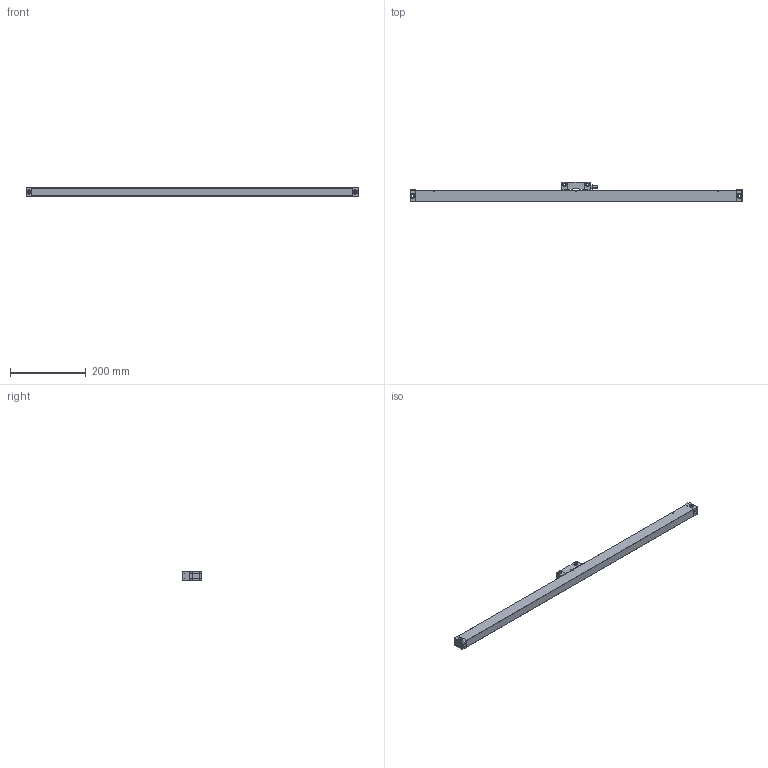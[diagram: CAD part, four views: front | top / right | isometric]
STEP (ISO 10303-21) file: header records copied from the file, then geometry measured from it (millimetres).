
FILE_DESCRIPTION (( 'STEP AP214' ), '1' );
FILE_NAME ('JCXE750-W5.step', '2023-05-18T05:38:42', ( 'IT Division' ), ( 'IT' ), 'SwSTEP 2.0', 'SolidWorks 2016', '' );
FILE_SCHEMA (( 'AUTOMOTIVE_DESIGN' ));
Length unit declared in the file: millimetre
Products named in the file (1): JCXE750-W5
Bounding box: 878 x 52.5 x 23.5 mm (x, y, z)
Volume: 591760.8 mm3; surface area: 107925.5 mm2
Topology: 2 solids, 2 shells, 307 faces, 756 edges, 466 vertices
Faces by surface type: cylinder 138, plane 134, torus 22, sphere 11, cone 2
Entity records: 9260 total; most frequent: CARTESIAN_POINT 1860, DIRECTION 1588, ORIENTED_EDGE 1486, EDGE_CURVE 743, AXIS2_PLACEMENT_3D 596, VERTEX_POINT 464, VECTOR 396, LINE 396
